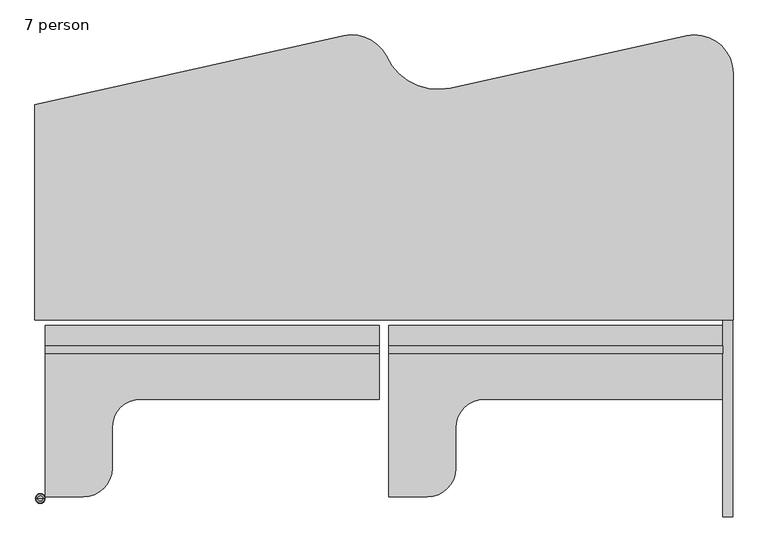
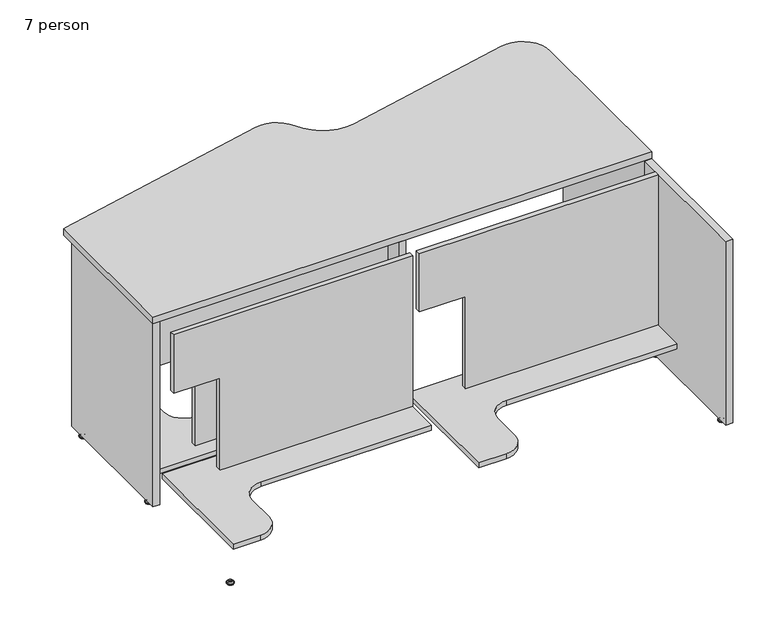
"""IFC4 building model written with IfcOpenShell, lengths in millimetres: furniture geometry, Nova Solutions - Collaboration Table - Keystone_6-7 person : 7 person."""

from ifc_helpers import new_model, si_unit, point, frame, frame_2d, origin, place, context, project, spatial, polyline, circle_curve, ellipse_curve, trimmed, segment, composite_curve, outline, extrude, source, transform, mapped, element, save
from ifc_brep_helpers import plane_surface, cylinder_surface, revolved_surface, advanced_brep


def furniture_7_person_7b940777(model_context):
    return source(origin(), model_context, "Body", "SolidModel", [
        advanced_brep(
        [(1375.9276506, 474.3309375, 11.1125), (1369.25, 474.3309375, 11.1125), (1362.5723494, 474.3309375, 11.1125), (1375.9276506, 474.3309375, 9.525), (1362.5723494, 474.3309375, 9.525), (1381.1355135, 474.3309375, 4.7748687), (1357.3644865, 474.3309375, 4.7748687), (1381.9966506, 474.3309375, 3.989419), (1356.5033494, 474.3309375, 3.989419), (1381.9966506, 474.3309375, 3.175), (1356.5033494, 474.3309375, 3.175), (1381.1459119, 474.3309375, 0.0), (1357.3540881, 474.3309375, 0.0), (1369.25, 474.3309375, 0.0)],
        [
            (0, 1),
            (1, 2),
            (2, 0, circle_curve(frame((1369.25, 474.3309375, 11.1125), z_axis=(0.0, 0.0, 1.0), x_axis=(-1.0, 0.0, 0.0)), 6.6776506)),
            (0, 2, circle_curve(frame((1369.25, 474.3309375, 11.1125), z_axis=(0.0, 0.0, 1.0), x_axis=(-1.0, 0.0, 0.0)), 6.6776506)),
            (3, 0),
            (2, 4),
            (4, 3, circle_curve(frame((1369.25, 474.3309375, 9.525), z_axis=(0.0, 0.0, 1.0), x_axis=(-1.0, 0.0, 0.0)), 6.6776506)),
            (3, 4, circle_curve(frame((1369.25, 474.3309375, 9.525), z_axis=(0.0, 0.0, 1.0), x_axis=(-1.0, 0.0, 0.0)), 6.6776506)),
            (5, 3, circle_curve(frame((1382.1820627, 474.3309375, 11.1521822), z_axis=(0.0, 1.0, 0.0), x_axis=(-1.0, 0.0, 0.0)), 6.462615)),
            (4, 6, circle_curve(frame((1356.3179373, 474.3309375, 11.1521822), z_axis=(0.0, 1.0, 0.0), x_axis=(1.0, 0.0, 0.0)), 6.462615)),
            (6, 5, circle_curve(frame((1369.25, 474.3309375, 4.7748687), z_axis=(0.0, 0.0, 1.0), x_axis=(-1.0, 0.0, 0.0)), 11.8855135)),
            (5, 6, circle_curve(frame((1369.25, 474.3309375, 4.7748687), z_axis=(0.0, 0.0, 1.0), x_axis=(-1.0, 0.0, 0.0)), 11.8855135)),
            (7, 5, circle_curve(frame((1380.9624632, 474.3309375, 3.7203591), z_axis=(0.0, -1.0, 0.0), x_axis=(-1.0, 0.0, 0.0)), 1.0686145)),
            (6, 8, circle_curve(frame((1357.5375368, 474.3309375, 3.7203591), z_axis=(0.0, -1.0, 0.0), x_axis=(1.0, 0.0, 0.0)), 1.0686145)),
            (8, 7, circle_curve(frame((1369.25, 474.3309375, 3.989419), z_axis=(0.0, 0.0, 1.0), x_axis=(-1.0, 0.0, 0.0)), 12.7466506)),
            (7, 8, circle_curve(frame((1369.25, 474.3309375, 3.989419), z_axis=(0.0, 0.0, 1.0), x_axis=(-1.0, 0.0, 0.0)), 12.7466506)),
            (9, 7),
            (8, 10),
            (10, 9, circle_curve(frame((1369.25, 474.3309375, 3.175), z_axis=(0.0, 0.0, 1.0), x_axis=(-1.0, 0.0, 0.0)), 12.7466506)),
            (9, 10, circle_curve(frame((1369.25, 474.3309375, 3.175), z_axis=(0.0, 0.0, 1.0), x_axis=(-1.0, 0.0, 0.0)), 12.7466506)),
            (11, 9),
            (10, 12),
            (12, 11, circle_curve(frame((1369.25, 474.3309375, 0.0), z_axis=(0.0, 0.0, 1.0), x_axis=(-1.0, 0.0, 0.0)), 11.8959119)),
            (11, 12, circle_curve(frame((1369.25, 474.3309375, 0.0), z_axis=(0.0, 0.0, 1.0), x_axis=(-1.0, 0.0, 0.0)), 11.8959119)),
            (13, 11),
            (12, 13),
        ],
        [
            plane_surface(frame((1369.25, 474.3309375, 11.1125), z_axis=(0.0, 0.0, 1.0), x_axis=(-1.0, 0.0, 0.0))),
            cylinder_surface(frame((1369.25, 474.3309375, 43.2095994), z_axis=(0.0, 0.0, -1.0), x_axis=(-1.0, 0.0, 0.0)), 6.6776506),
            revolved_surface(trimmed(ellipse_curve(frame((1356.3179373, 474.3309375, 11.1521822), z_axis=(0.0, 1.0, 0.0), x_axis=(1.0, 0.0, 0.0)), 6.462615, 6.462615), [point((1362.5723494, 474.3309375, 9.525))], [point((1357.3644865, 474.3309375, 4.7748687))], True, "CARTESIAN"), (1369.25, 474.3309375, 43.2095994), (0.0, 0.0, -1.0)),
            revolved_surface(trimmed(ellipse_curve(frame((1357.5375368, 474.3309375, 3.7203591), z_axis=(0.0, -1.0, 0.0), x_axis=(1.0, 0.0, 0.0)), 1.0686145, 1.0686145), [point((1357.3644865, 474.3309375, 4.7748687))], [point((1356.5033494, 474.3309375, 3.989419))], True, "CARTESIAN"), (1369.25, 474.3309375, 43.2095994), (0.0, 0.0, -1.0)),
            cylinder_surface(frame((1369.25, 474.3309375, 43.2095994), z_axis=(0.0, 0.0, -1.0), x_axis=(-1.0, 0.0, 0.0)), 12.7466506),
            revolved_surface(polyline([(1356.5033494, 474.3309375, 3.175), (1357.3540881, 474.3309375, 0.0)]), (1369.25, 474.3309375, 43.2095994), (0.0, 0.0, -1.0)),
            plane_surface(frame((1369.25, 474.3309375, 0.0), z_axis=(0.0, 0.0, -1.0), x_axis=(-1.0, 0.0, 0.0))),
        ],
        [
            (0, [[1, 2, 3]]),
            (0, [[-2, -1, 4]]),
            (1, [[5, -3, 6, 7]]),
            (1, [[-6, -4, -5, 8]]),
            (2, [[9, -7, 10, 11]]),
            (2, [[-10, -8, -9, 12]]),
            (3, [[13, -11, 14, 15]]),
            (3, [[-14, -12, -13, 16]]),
            (4, [[17, -15, 18, 19]]),
            (4, [[-18, -16, -17, 20]]),
            (5, [[21, -19, 22, 23]]),
            (5, [[-22, -20, -21, 24]]),
            (6, [[25, -23, 26]]),
            (6, [[-26, -24, -25]]),
        ],
    ),
        advanced_brep(
        [(1375.9276506, 50.3590625, 11.1125), (1369.25, 50.3590625, 11.1125), (1362.5723494, 50.3590625, 11.1125), (1375.9276506, 50.3590625, 9.525), (1362.5723494, 50.3590625, 9.525), (1381.1355135, 50.3590625, 4.7748687), (1357.3644865, 50.3590625, 4.7748687), (1381.9966506, 50.3590625, 3.989419), (1356.5033494, 50.3590625, 3.989419), (1381.9966506, 50.3590625, 3.175), (1356.5033494, 50.3590625, 3.175), (1381.1459119, 50.3590625, 0.0), (1357.3540881, 50.3590625, 0.0), (1369.25, 50.3590625, 0.0)],
        [
            (0, 1),
            (1, 2),
            (2, 0, circle_curve(frame((1369.25, 50.3590625, 11.1125), z_axis=(0.0, 0.0, 1.0), x_axis=(-1.0, 0.0, 0.0)), 6.6776506)),
            (0, 2, circle_curve(frame((1369.25, 50.3590625, 11.1125), z_axis=(0.0, 0.0, 1.0), x_axis=(-1.0, 0.0, 0.0)), 6.6776506)),
            (3, 0),
            (2, 4),
            (4, 3, circle_curve(frame((1369.25, 50.3590625, 9.525), z_axis=(0.0, 0.0, 1.0), x_axis=(-1.0, 0.0, 0.0)), 6.6776506)),
            (3, 4, circle_curve(frame((1369.25, 50.3590625, 9.525), z_axis=(0.0, 0.0, 1.0), x_axis=(-1.0, 0.0, 0.0)), 6.6776506)),
            (5, 3, circle_curve(frame((1382.1820627, 50.3590625, 11.1521822), z_axis=(0.0, 1.0, 0.0), x_axis=(-1.0, 0.0, 0.0)), 6.462615)),
            (4, 6, circle_curve(frame((1356.3179373, 50.3590625, 11.1521822), z_axis=(0.0, 1.0, 0.0), x_axis=(1.0, 0.0, 0.0)), 6.462615)),
            (6, 5, circle_curve(frame((1369.25, 50.3590625, 4.7748687), z_axis=(0.0, 0.0, 1.0), x_axis=(-1.0, 0.0, 0.0)), 11.8855135)),
            (5, 6, circle_curve(frame((1369.25, 50.3590625, 4.7748687), z_axis=(0.0, 0.0, 1.0), x_axis=(-1.0, 0.0, 0.0)), 11.8855135)),
            (7, 5, circle_curve(frame((1380.9624632, 50.3590625, 3.7203591), z_axis=(0.0, -1.0, 0.0), x_axis=(-1.0, 0.0, 0.0)), 1.0686145)),
            (6, 8, circle_curve(frame((1357.5375368, 50.3590625, 3.7203591), z_axis=(0.0, -1.0, 0.0), x_axis=(1.0, 0.0, 0.0)), 1.0686145)),
            (8, 7, circle_curve(frame((1369.25, 50.3590625, 3.989419), z_axis=(0.0, 0.0, 1.0), x_axis=(-1.0, 0.0, 0.0)), 12.7466506)),
            (7, 8, circle_curve(frame((1369.25, 50.3590625, 3.989419), z_axis=(0.0, 0.0, 1.0), x_axis=(-1.0, 0.0, 0.0)), 12.7466506)),
            (9, 7),
            (8, 10),
            (10, 9, circle_curve(frame((1369.25, 50.3590625, 3.175), z_axis=(0.0, 0.0, 1.0), x_axis=(-1.0, 0.0, 0.0)), 12.7466506)),
            (9, 10, circle_curve(frame((1369.25, 50.3590625, 3.175), z_axis=(0.0, 0.0, 1.0), x_axis=(-1.0, 0.0, 0.0)), 12.7466506)),
            (11, 9),
            (10, 12),
            (12, 11, circle_curve(frame((1369.25, 50.3590625, 0.0), z_axis=(0.0, 0.0, 1.0), x_axis=(-1.0, 0.0, 0.0)), 11.8959119)),
            (11, 12, circle_curve(frame((1369.25, 50.3590625, 0.0), z_axis=(0.0, 0.0, 1.0), x_axis=(-1.0, 0.0, 0.0)), 11.8959119)),
            (13, 11),
            (12, 13),
        ],
        [
            plane_surface(frame((1369.25, 50.3590625, 11.1125), z_axis=(0.0, 0.0, 1.0), x_axis=(-1.0, 0.0, 0.0))),
            cylinder_surface(frame((1369.25, 50.3590625, 43.2095994), z_axis=(0.0, 0.0, -1.0), x_axis=(-1.0, 0.0, 0.0)), 6.6776506),
            revolved_surface(trimmed(ellipse_curve(frame((1356.3179373, 50.3590625, 11.1521822), z_axis=(0.0, 1.0, 0.0), x_axis=(1.0, 0.0, 0.0)), 6.462615, 6.462615), [point((1362.5723494, 50.3590625, 9.525))], [point((1357.3644865, 50.3590625, 4.7748687))], True, "CARTESIAN"), (1369.25, 50.3590625, 43.2095994), (0.0, 0.0, -1.0)),
            revolved_surface(trimmed(ellipse_curve(frame((1357.5375368, 50.3590625, 3.7203591), z_axis=(0.0, -1.0, 0.0), x_axis=(1.0, 0.0, 0.0)), 1.0686145, 1.0686145), [point((1357.3644865, 50.3590625, 4.7748687))], [point((1356.5033494, 50.3590625, 3.989419))], True, "CARTESIAN"), (1369.25, 50.3590625, 43.2095994), (0.0, 0.0, -1.0)),
            cylinder_surface(frame((1369.25, 50.3590625, 43.2095994), z_axis=(0.0, 0.0, -1.0), x_axis=(-1.0, 0.0, 0.0)), 12.7466506),
            revolved_surface(polyline([(1356.5033494, 50.3590625, 3.175), (1357.3540881, 50.3590625, 0.0)]), (1369.25, 50.3590625, 43.2095994), (0.0, 0.0, -1.0)),
            plane_surface(frame((1369.25, 50.3590625, 0.0), z_axis=(0.0, 0.0, -1.0), x_axis=(-1.0, 0.0, 0.0))),
        ],
        [
            (0, [[1, 2, 3]]),
            (0, [[-2, -1, 4]]),
            (1, [[5, -3, 6, 7]]),
            (1, [[-6, -4, -5, 8]]),
            (2, [[9, -7, 10, 11]]),
            (2, [[-10, -8, -9, 12]]),
            (3, [[13, -11, 14, 15]]),
            (3, [[-14, -12, -13, 16]]),
            (4, [[17, -15, 18, 19]]),
            (4, [[-18, -16, -17, 20]]),
            (5, [[21, -19, 22, 23]]),
            (5, [[-22, -20, -21, 24]]),
            (6, [[25, -23, 26]]),
            (6, [[-26, -24, -25]]),
        ],
    ),
        extrude(outline(polyline([(1382.1, 1.345), (1356.4, 1.345), (1356.4, 523.345), (1382.1, 523.345), (1382.1, 1.345)])), frame((0.0, 0.0, 15.6), z_axis=(0.0, 0.0, 1.0), x_axis=(1.0, 0.0, 0.0)), (0.0, 0.0, 1.0), 720.7),
        extrude(outline(polyline([(736.3, 443.6), (736.3, -443.6), (507.4, -443.6), (507.4, -272.6), (145.5, -272.6), (145.5, 443.6), (736.3, 443.6)])), frame((0.0, 69.345, 0.0), z_axis=(0.0, 1.0, 0.0), x_axis=(0.0, 0.0, 1.0)), (0.0, 0.0, 1.0), 19.2),
        extrude(outline(composite_curve([segment(polyline([(-443.6, 469.9075), (-342.0, 469.9075)]), True, "CONTINUOUS"), segment(trimmed(circle_curve(frame_2d((-342.0, 393.7075)), 76.2), [point((-342.0, 469.9075))], [point((-265.8, 393.7075))], False, "CARTESIAN"), True, "CONTINUOUS"), segment(polyline([(-265.8, 393.7075), (-265.8, 286.545)]), True, "CONTINUOUS"), segment(trimmed(circle_curve(frame_2d((-189.6, 286.545)), 76.2), [point((-265.8, 286.545))], [point((-189.6, 210.345))], True, "CARTESIAN"), True, "CONTINUOUS"), segment(polyline([(-189.6, 210.345), (443.6, 210.345), (443.6, 14.045), (-443.6, 14.045), (-443.6, 469.9075)]), True, "CONTINUOUS")], self_intersect=False)), frame((0.0, 0.0, 126.3), z_axis=(0.0, 0.0, 1.0), x_axis=(1.0, 0.0, 0.0)), (0.0, 0.0, 1.0), 19.2),
        advanced_brep(
        [(-463.1276506, 474.3309375, 11.1125), (-449.7723494, 474.3309375, 11.1125), (-456.45, 474.3309375, 11.1125), (-463.1276506, 474.3309375, 9.525), (-449.7723494, 474.3309375, 9.525), (-468.3355135, 474.3309375, 4.7748687), (-444.5644865, 474.3309375, 4.7748687), (-469.1966506, 474.3309375, 3.989419), (-443.7033494, 474.3309375, 3.989419), (-469.1966506, 474.3309375, 3.175), (-443.7033494, 474.3309375, 3.175), (-468.3459119, 474.3309375, 0.0), (-444.5540881, 474.3309375, 0.0), (-456.45, 474.3309375, 0.0)],
        [
            (0, 1, circle_curve(frame((-456.45, 474.3309375, 11.1125), z_axis=(0.0, 0.0, 1.0), x_axis=(1.0, 0.0, 0.0)), 6.6776506)),
            (1, 2),
            (2, 0),
            (1, 0, circle_curve(frame((-456.45, 474.3309375, 11.1125), z_axis=(0.0, 0.0, 1.0), x_axis=(1.0, 0.0, 0.0)), 6.6776506)),
            (3, 4, circle_curve(frame((-456.45, 474.3309375, 9.525), z_axis=(0.0, 0.0, 1.0), x_axis=(1.0, 0.0, 0.0)), 6.6776506)),
            (4, 1),
            (0, 3),
            (4, 3, circle_curve(frame((-456.45, 474.3309375, 9.525), z_axis=(0.0, 0.0, 1.0), x_axis=(1.0, 0.0, 0.0)), 6.6776506)),
            (5, 6, circle_curve(frame((-456.45, 474.3309375, 4.7748687), z_axis=(0.0, 0.0, 1.0), x_axis=(1.0, 0.0, 0.0)), 11.8855135)),
            (6, 4, circle_curve(frame((-443.5179373, 474.3309375, 11.1521822), z_axis=(0.0, 1.0, 0.0), x_axis=(-1.0, 0.0, 0.0)), 6.462615)),
            (3, 5, circle_curve(frame((-469.3820627, 474.3309375, 11.1521822), z_axis=(0.0, 1.0, 0.0), x_axis=(1.0, 0.0, 0.0)), 6.462615)),
            (6, 5, circle_curve(frame((-456.45, 474.3309375, 4.7748687), z_axis=(0.0, 0.0, 1.0), x_axis=(1.0, 0.0, 0.0)), 11.8855135)),
            (7, 8, circle_curve(frame((-456.45, 474.3309375, 3.989419), z_axis=(0.0, 0.0, 1.0), x_axis=(1.0, 0.0, 0.0)), 12.7466506)),
            (8, 6, circle_curve(frame((-444.7375368, 474.3309375, 3.7203591), z_axis=(0.0, -1.0, 0.0), x_axis=(-1.0, 0.0, 0.0)), 1.0686145)),
            (5, 7, circle_curve(frame((-468.1624632, 474.3309375, 3.7203591), z_axis=(0.0, -1.0, 0.0), x_axis=(1.0, 0.0, 0.0)), 1.0686145)),
            (8, 7, circle_curve(frame((-456.45, 474.3309375, 3.989419), z_axis=(0.0, 0.0, 1.0), x_axis=(1.0, 0.0, 0.0)), 12.7466506)),
            (9, 10, circle_curve(frame((-456.45, 474.3309375, 3.175), z_axis=(0.0, 0.0, 1.0), x_axis=(1.0, 0.0, 0.0)), 12.7466506)),
            (10, 8),
            (7, 9),
            (10, 9, circle_curve(frame((-456.45, 474.3309375, 3.175), z_axis=(0.0, 0.0, 1.0), x_axis=(1.0, 0.0, 0.0)), 12.7466506)),
            (11, 12, circle_curve(frame((-456.45, 474.3309375, 0.0), z_axis=(0.0, 0.0, 1.0), x_axis=(1.0, 0.0, 0.0)), 11.8959119)),
            (12, 10),
            (9, 11),
            (12, 11, circle_curve(frame((-456.45, 474.3309375, 0.0), z_axis=(0.0, 0.0, 1.0), x_axis=(1.0, 0.0, 0.0)), 11.8959119)),
            (13, 12),
            (11, 13),
        ],
        [
            plane_surface(frame((-456.45, 474.3309375, 11.1125), z_axis=(0.0, 0.0, 1.0), x_axis=(1.0, 0.0, 0.0))),
            cylinder_surface(frame((-456.45, 474.3309375, 43.2095994), z_axis=(0.0, 0.0, -1.0), x_axis=(1.0, 0.0, 0.0)), 6.6776506),
            revolved_surface(trimmed(ellipse_curve(frame((-443.5179373, 474.3309375, 11.1521822), z_axis=(0.0, -1.0, 0.0), x_axis=(-1.0, 0.0, 0.0)), 6.462615, 6.462615), [point((-449.7723494, 474.3309375, 9.525))], [point((-444.5644865, 474.3309375, 4.7748687))], True, "CARTESIAN"), (-456.45, 474.3309375, 43.2095994), (0.0, 0.0, -1.0)),
            revolved_surface(trimmed(ellipse_curve(frame((-444.7375368, 474.3309375, 3.7203591), z_axis=(0.0, 1.0, 0.0), x_axis=(-1.0, 0.0, 0.0)), 1.0686145, 1.0686145), [point((-444.5644865, 474.3309375, 4.7748687))], [point((-443.7033494, 474.3309375, 3.989419))], True, "CARTESIAN"), (-456.45, 474.3309375, 43.2095994), (0.0, 0.0, -1.0)),
            cylinder_surface(frame((-456.45, 474.3309375, 43.2095994), z_axis=(0.0, 0.0, -1.0), x_axis=(1.0, 0.0, 0.0)), 12.7466506),
            revolved_surface(polyline([(-443.7033494, 474.3309375, 3.175), (-444.5540881, 474.3309375, 0.0)]), (-456.45, 474.3309375, 43.2095994), (0.0, 0.0, -1.0)),
            plane_surface(frame((-456.45, 474.3309375, 0.0), z_axis=(0.0, 0.0, -1.0), x_axis=(1.0, 0.0, 0.0))),
        ],
        [
            (0, [[1, 2, 3]]),
            (0, [[4, -3, -2]]),
            (1, [[5, 6, -1, 7]]),
            (1, [[8, -7, -4, -6]]),
            (2, [[9, 10, -5, 11]]),
            (2, [[12, -11, -8, -10]]),
            (3, [[13, 14, -9, 15]]),
            (3, [[16, -15, -12, -14]]),
            (4, [[17, 18, -13, 19]]),
            (4, [[20, -19, -16, -18]]),
            (5, [[21, 22, -17, 23]]),
            (5, [[24, -23, -20, -22]]),
            (6, [[25, -21, 26]]),
            (6, [[-26, -24, -25]]),
        ],
    ),
        advanced_brep(
        [(-463.1276506, 50.3590625, 11.1125), (-449.7723494, 50.3590625, 11.1125), (-456.45, 50.3590625, 11.1125), (-463.1276506, 50.3590625, 9.525), (-449.7723494, 50.3590625, 9.525), (-468.3355135, 50.3590625, 4.7748687), (-444.5644865, 50.3590625, 4.7748687), (-469.1966506, 50.3590625, 3.989419), (-443.7033494, 50.3590625, 3.989419), (-469.1966506, 50.3590625, 3.175), (-443.7033494, 50.3590625, 3.175), (-468.3459119, 50.3590625, 0.0), (-444.5540881, 50.3590625, 0.0), (-456.45, 50.3590625, 0.0)],
        [
            (0, 1, circle_curve(frame((-456.45, 50.3590625, 11.1125), z_axis=(0.0, 0.0, 1.0), x_axis=(1.0, 0.0, 0.0)), 6.6776506)),
            (1, 2),
            (2, 0),
            (1, 0, circle_curve(frame((-456.45, 50.3590625, 11.1125), z_axis=(0.0, 0.0, 1.0), x_axis=(1.0, 0.0, 0.0)), 6.6776506)),
            (3, 4, circle_curve(frame((-456.45, 50.3590625, 9.525), z_axis=(0.0, 0.0, 1.0), x_axis=(1.0, 0.0, 0.0)), 6.6776506)),
            (4, 1),
            (0, 3),
            (4, 3, circle_curve(frame((-456.45, 50.3590625, 9.525), z_axis=(0.0, 0.0, 1.0), x_axis=(1.0, 0.0, 0.0)), 6.6776506)),
            (5, 6, circle_curve(frame((-456.45, 50.3590625, 4.7748687), z_axis=(0.0, 0.0, 1.0), x_axis=(1.0, 0.0, 0.0)), 11.8855135)),
            (6, 4, circle_curve(frame((-443.5179373, 50.3590625, 11.1521822), z_axis=(0.0, 1.0, 0.0), x_axis=(-1.0, 0.0, 0.0)), 6.462615)),
            (3, 5, circle_curve(frame((-469.3820627, 50.3590625, 11.1521822), z_axis=(0.0, 1.0, 0.0), x_axis=(1.0, 0.0, 0.0)), 6.462615)),
            (6, 5, circle_curve(frame((-456.45, 50.3590625, 4.7748687), z_axis=(0.0, 0.0, 1.0), x_axis=(1.0, 0.0, 0.0)), 11.8855135)),
            (7, 8, circle_curve(frame((-456.45, 50.3590625, 3.989419), z_axis=(0.0, 0.0, 1.0), x_axis=(1.0, 0.0, 0.0)), 12.7466506)),
            (8, 6, circle_curve(frame((-444.7375368, 50.3590625, 3.7203591), z_axis=(0.0, -1.0, 0.0), x_axis=(-1.0, 0.0, 0.0)), 1.0686145)),
            (5, 7, circle_curve(frame((-468.1624632, 50.3590625, 3.7203591), z_axis=(0.0, -1.0, 0.0), x_axis=(1.0, 0.0, 0.0)), 1.0686145)),
            (8, 7, circle_curve(frame((-456.45, 50.3590625, 3.989419), z_axis=(0.0, 0.0, 1.0), x_axis=(1.0, 0.0, 0.0)), 12.7466506)),
            (9, 10, circle_curve(frame((-456.45, 50.3590625, 3.175), z_axis=(0.0, 0.0, 1.0), x_axis=(1.0, 0.0, 0.0)), 12.7466506)),
            (10, 8),
            (7, 9),
            (10, 9, circle_curve(frame((-456.45, 50.3590625, 3.175), z_axis=(0.0, 0.0, 1.0), x_axis=(1.0, 0.0, 0.0)), 12.7466506)),
            (11, 12, circle_curve(frame((-456.45, 50.3590625, 0.0), z_axis=(0.0, 0.0, 1.0), x_axis=(1.0, 0.0, 0.0)), 11.8959119)),
            (12, 10),
            (9, 11),
            (12, 11, circle_curve(frame((-456.45, 50.3590625, 0.0), z_axis=(0.0, 0.0, 1.0), x_axis=(1.0, 0.0, 0.0)), 11.8959119)),
            (13, 12),
            (11, 13),
        ],
        [
            plane_surface(frame((-456.45, 50.3590625, 11.1125), z_axis=(0.0, 0.0, 1.0), x_axis=(1.0, 0.0, 0.0))),
            cylinder_surface(frame((-456.45, 50.3590625, 43.2095994), z_axis=(0.0, 0.0, -1.0), x_axis=(1.0, 0.0, 0.0)), 6.6776506),
            revolved_surface(trimmed(ellipse_curve(frame((-443.5179373, 50.3590625, 11.1521822), z_axis=(0.0, -1.0, 0.0), x_axis=(-1.0, 0.0, 0.0)), 6.462615, 6.462615), [point((-449.7723494, 50.3590625, 9.525))], [point((-444.5644865, 50.3590625, 4.7748687))], True, "CARTESIAN"), (-456.45, 50.3590625, 43.2095994), (0.0, 0.0, -1.0)),
            revolved_surface(trimmed(ellipse_curve(frame((-444.7375368, 50.3590625, 3.7203591), z_axis=(0.0, 1.0, 0.0), x_axis=(-1.0, 0.0, 0.0)), 1.0686145, 1.0686145), [point((-444.5644865, 50.3590625, 4.7748687))], [point((-443.7033494, 50.3590625, 3.989419))], True, "CARTESIAN"), (-456.45, 50.3590625, 43.2095994), (0.0, 0.0, -1.0)),
            cylinder_surface(frame((-456.45, 50.3590625, 43.2095994), z_axis=(0.0, 0.0, -1.0), x_axis=(1.0, 0.0, 0.0)), 12.7466506),
            revolved_surface(polyline([(-443.7033494, 50.3590625, 3.175), (-444.5540881, 50.3590625, 0.0)]), (-456.45, 50.3590625, 43.2095994), (0.0, 0.0, -1.0)),
            plane_surface(frame((-456.45, 50.3590625, 0.0), z_axis=(0.0, 0.0, -1.0), x_axis=(1.0, 0.0, 0.0))),
        ],
        [
            (0, [[1, 2, 3]]),
            (0, [[4, -3, -2]]),
            (1, [[5, 6, -1, 7]]),
            (1, [[8, -7, -4, -6]]),
            (2, [[9, 10, -5, 11]]),
            (2, [[12, -11, -8, -10]]),
            (3, [[13, 14, -9, 15]]),
            (3, [[16, -15, -12, -14]]),
            (4, [[17, 18, -13, 19]]),
            (4, [[20, -19, -16, -18]]),
            (5, [[21, 22, -17, 23]]),
            (5, [[24, -23, -20, -22]]),
            (6, [[25, -21, 26]]),
            (6, [[-26, -24, -25]]),
        ],
    ),
        extrude(outline(polyline([(-469.3, 1.345), (-469.3, 523.345), (-443.6, 523.345), (-443.6, 1.345), (-469.3, 1.345)])), frame((0.0, 0.0, 15.6), z_axis=(0.0, 0.0, 1.0), x_axis=(1.0, 0.0, 0.0)), (0.0, 0.0, 1.0), 720.7),
        advanced_brep(
        [(463.1276506, 474.3309375, 11.1125), (456.45, 474.3309375, 11.1125), (449.7723494, 474.3309375, 11.1125), (463.1276506, 474.3309375, 9.525), (449.7723494, 474.3309375, 9.525), (468.3355135, 474.3309375, 4.7748687), (444.5644865, 474.3309375, 4.7748687), (469.1966506, 474.3309375, 3.989419), (443.7033494, 474.3309375, 3.989419), (469.1966506, 474.3309375, 3.175), (443.7033494, 474.3309375, 3.175), (468.3459119, 474.3309375, 0.0), (444.5540881, 474.3309375, 0.0), (456.45, 474.3309375, 0.0)],
        [
            (0, 1),
            (1, 2),
            (2, 0, circle_curve(frame((456.45, 474.3309375, 11.1125), z_axis=(0.0, 0.0, 1.0), x_axis=(-1.0, 0.0, 0.0)), 6.6776506)),
            (0, 2, circle_curve(frame((456.45, 474.3309375, 11.1125), z_axis=(0.0, 0.0, 1.0), x_axis=(-1.0, 0.0, 0.0)), 6.6776506)),
            (3, 0),
            (2, 4),
            (4, 3, circle_curve(frame((456.45, 474.3309375, 9.525), z_axis=(0.0, 0.0, 1.0), x_axis=(-1.0, 0.0, 0.0)), 6.6776506)),
            (3, 4, circle_curve(frame((456.45, 474.3309375, 9.525), z_axis=(0.0, 0.0, 1.0), x_axis=(-1.0, 0.0, 0.0)), 6.6776506)),
            (5, 3, circle_curve(frame((469.3820627, 474.3309375, 11.1521822), z_axis=(0.0, 1.0, 0.0), x_axis=(-1.0, 0.0, 0.0)), 6.462615)),
            (4, 6, circle_curve(frame((443.5179373, 474.3309375, 11.1521822), z_axis=(0.0, 1.0, 0.0), x_axis=(1.0, 0.0, 0.0)), 6.462615)),
            (6, 5, circle_curve(frame((456.45, 474.3309375, 4.7748687), z_axis=(0.0, 0.0, 1.0), x_axis=(-1.0, 0.0, 0.0)), 11.8855135)),
            (5, 6, circle_curve(frame((456.45, 474.3309375, 4.7748687), z_axis=(0.0, 0.0, 1.0), x_axis=(-1.0, 0.0, 0.0)), 11.8855135)),
            (7, 5, circle_curve(frame((468.1624632, 474.3309375, 3.7203591), z_axis=(0.0, -1.0, 0.0), x_axis=(-1.0, 0.0, 0.0)), 1.0686145)),
            (6, 8, circle_curve(frame((444.7375368, 474.3309375, 3.7203591), z_axis=(0.0, -1.0, 0.0), x_axis=(1.0, 0.0, 0.0)), 1.0686145)),
            (8, 7, circle_curve(frame((456.45, 474.3309375, 3.989419), z_axis=(0.0, 0.0, 1.0), x_axis=(-1.0, 0.0, 0.0)), 12.7466506)),
            (7, 8, circle_curve(frame((456.45, 474.3309375, 3.989419), z_axis=(0.0, 0.0, 1.0), x_axis=(-1.0, 0.0, 0.0)), 12.7466506)),
            (9, 7),
            (8, 10),
            (10, 9, circle_curve(frame((456.45, 474.3309375, 3.175), z_axis=(0.0, 0.0, 1.0), x_axis=(-1.0, 0.0, 0.0)), 12.7466506)),
            (9, 10, circle_curve(frame((456.45, 474.3309375, 3.175), z_axis=(0.0, 0.0, 1.0), x_axis=(-1.0, 0.0, 0.0)), 12.7466506)),
            (11, 9),
            (10, 12),
            (12, 11, circle_curve(frame((456.45, 474.3309375, 0.0), z_axis=(0.0, 0.0, 1.0), x_axis=(-1.0, 0.0, 0.0)), 11.8959119)),
            (11, 12, circle_curve(frame((456.45, 474.3309375, 0.0), z_axis=(0.0, 0.0, 1.0), x_axis=(-1.0, 0.0, 0.0)), 11.8959119)),
            (13, 11),
            (12, 13),
        ],
        [
            plane_surface(frame((456.45, 474.3309375, 11.1125), z_axis=(0.0, 0.0, 1.0), x_axis=(-1.0, 0.0, 0.0))),
            cylinder_surface(frame((456.45, 474.3309375, 43.2095994), z_axis=(0.0, 0.0, -1.0), x_axis=(-1.0, 0.0, 0.0)), 6.6776506),
            revolved_surface(trimmed(ellipse_curve(frame((443.5179373, 474.3309375, 11.1521822), z_axis=(0.0, 1.0, 0.0), x_axis=(1.0, 0.0, 0.0)), 6.462615, 6.462615), [point((449.7723494, 474.3309375, 9.525))], [point((444.5644865, 474.3309375, 4.7748687))], True, "CARTESIAN"), (456.45, 474.3309375, 43.2095994), (0.0, 0.0, -1.0)),
            revolved_surface(trimmed(ellipse_curve(frame((444.7375368, 474.3309375, 3.7203591), z_axis=(0.0, -1.0, 0.0), x_axis=(1.0, 0.0, 0.0)), 1.0686145, 1.0686145), [point((444.5644865, 474.3309375, 4.7748687))], [point((443.7033494, 474.3309375, 3.989419))], True, "CARTESIAN"), (456.45, 474.3309375, 43.2095994), (0.0, 0.0, -1.0)),
            cylinder_surface(frame((456.45, 474.3309375, 43.2095994), z_axis=(0.0, 0.0, -1.0), x_axis=(-1.0, 0.0, 0.0)), 12.7466506),
            revolved_surface(polyline([(443.7033494, 474.3309375, 3.175), (444.5540881, 474.3309375, 0.0)]), (456.45, 474.3309375, 43.2095994), (0.0, 0.0, -1.0)),
            plane_surface(frame((456.45, 474.3309375, 0.0), z_axis=(0.0, 0.0, -1.0), x_axis=(-1.0, 0.0, 0.0))),
        ],
        [
            (0, [[1, 2, 3]]),
            (0, [[-2, -1, 4]]),
            (1, [[5, -3, 6, 7]]),
            (1, [[-6, -4, -5, 8]]),
            (2, [[9, -7, 10, 11]]),
            (2, [[-10, -8, -9, 12]]),
            (3, [[13, -11, 14, 15]]),
            (3, [[-14, -12, -13, 16]]),
            (4, [[17, -15, 18, 19]]),
            (4, [[-18, -16, -17, 20]]),
            (5, [[21, -19, 22, 23]]),
            (5, [[-22, -20, -21, 24]]),
            (6, [[25, -23, 26]]),
            (6, [[-26, -24, -25]]),
        ],
    ),
        advanced_brep(
        [(463.1276506, 50.3590625, 11.1125), (456.45, 50.3590625, 11.1125), (449.7723494, 50.3590625, 11.1125), (463.1276506, 50.3590625, 9.525), (449.7723494, 50.3590625, 9.525), (468.3355135, 50.3590625, 4.7748687), (444.5644865, 50.3590625, 4.7748687), (469.1966506, 50.3590625, 3.989419), (443.7033494, 50.3590625, 3.989419), (469.1966506, 50.3590625, 3.175), (443.7033494, 50.3590625, 3.175), (468.3459119, 50.3590625, 0.0), (444.5540881, 50.3590625, 0.0), (456.45, 50.3590625, 0.0)],
        [
            (0, 1),
            (1, 2),
            (2, 0, circle_curve(frame((456.45, 50.3590625, 11.1125), z_axis=(0.0, 0.0, 1.0), x_axis=(-1.0, 0.0, 0.0)), 6.6776506)),
            (0, 2, circle_curve(frame((456.45, 50.3590625, 11.1125), z_axis=(0.0, 0.0, 1.0), x_axis=(-1.0, 0.0, 0.0)), 6.6776506)),
            (3, 0),
            (2, 4),
            (4, 3, circle_curve(frame((456.45, 50.3590625, 9.525), z_axis=(0.0, 0.0, 1.0), x_axis=(-1.0, 0.0, 0.0)), 6.6776506)),
            (3, 4, circle_curve(frame((456.45, 50.3590625, 9.525), z_axis=(0.0, 0.0, 1.0), x_axis=(-1.0, 0.0, 0.0)), 6.6776506)),
            (5, 3, circle_curve(frame((469.3820627, 50.3590625, 11.1521822), z_axis=(0.0, 1.0, 0.0), x_axis=(-1.0, 0.0, 0.0)), 6.462615)),
            (4, 6, circle_curve(frame((443.5179373, 50.3590625, 11.1521822), z_axis=(0.0, 1.0, 0.0), x_axis=(1.0, 0.0, 0.0)), 6.462615)),
            (6, 5, circle_curve(frame((456.45, 50.3590625, 4.7748687), z_axis=(0.0, 0.0, 1.0), x_axis=(-1.0, 0.0, 0.0)), 11.8855135)),
            (5, 6, circle_curve(frame((456.45, 50.3590625, 4.7748687), z_axis=(0.0, 0.0, 1.0), x_axis=(-1.0, 0.0, 0.0)), 11.8855135)),
            (7, 5, circle_curve(frame((468.1624632, 50.3590625, 3.7203591), z_axis=(0.0, -1.0, 0.0), x_axis=(-1.0, 0.0, 0.0)), 1.0686145)),
            (6, 8, circle_curve(frame((444.7375368, 50.3590625, 3.7203591), z_axis=(0.0, -1.0, 0.0), x_axis=(1.0, 0.0, 0.0)), 1.0686145)),
            (8, 7, circle_curve(frame((456.45, 50.3590625, 3.989419), z_axis=(0.0, 0.0, 1.0), x_axis=(-1.0, 0.0, 0.0)), 12.7466506)),
            (7, 8, circle_curve(frame((456.45, 50.3590625, 3.989419), z_axis=(0.0, 0.0, 1.0), x_axis=(-1.0, 0.0, 0.0)), 12.7466506)),
            (9, 7),
            (8, 10),
            (10, 9, circle_curve(frame((456.45, 50.3590625, 3.175), z_axis=(0.0, 0.0, 1.0), x_axis=(-1.0, 0.0, 0.0)), 12.7466506)),
            (9, 10, circle_curve(frame((456.45, 50.3590625, 3.175), z_axis=(0.0, 0.0, 1.0), x_axis=(-1.0, 0.0, 0.0)), 12.7466506)),
            (11, 9),
            (10, 12),
            (12, 11, circle_curve(frame((456.45, 50.3590625, 0.0), z_axis=(0.0, 0.0, 1.0), x_axis=(-1.0, 0.0, 0.0)), 11.8959119)),
            (11, 12, circle_curve(frame((456.45, 50.3590625, 0.0), z_axis=(0.0, 0.0, 1.0), x_axis=(-1.0, 0.0, 0.0)), 11.8959119)),
            (13, 11),
            (12, 13),
        ],
        [
            plane_surface(frame((456.45, 50.3590625, 11.1125), z_axis=(0.0, 0.0, 1.0), x_axis=(-1.0, 0.0, 0.0))),
            cylinder_surface(frame((456.45, 50.3590625, 43.2095994), z_axis=(0.0, 0.0, -1.0), x_axis=(-1.0, 0.0, 0.0)), 6.6776506),
            revolved_surface(trimmed(ellipse_curve(frame((443.5179373, 50.3590625, 11.1521822), z_axis=(0.0, 1.0, 0.0), x_axis=(1.0, 0.0, 0.0)), 6.462615, 6.462615), [point((449.7723494, 50.3590625, 9.525))], [point((444.5644865, 50.3590625, 4.7748687))], True, "CARTESIAN"), (456.45, 50.3590625, 43.2095994), (0.0, 0.0, -1.0)),
            revolved_surface(trimmed(ellipse_curve(frame((444.7375368, 50.3590625, 3.7203591), z_axis=(0.0, -1.0, 0.0), x_axis=(1.0, 0.0, 0.0)), 1.0686145, 1.0686145), [point((444.5644865, 50.3590625, 4.7748687))], [point((443.7033494, 50.3590625, 3.989419))], True, "CARTESIAN"), (456.45, 50.3590625, 43.2095994), (0.0, 0.0, -1.0)),
            cylinder_surface(frame((456.45, 50.3590625, 43.2095994), z_axis=(0.0, 0.0, -1.0), x_axis=(-1.0, 0.0, 0.0)), 12.7466506),
            revolved_surface(polyline([(443.7033494, 50.3590625, 3.175), (444.5540881, 50.3590625, 0.0)]), (456.45, 50.3590625, 43.2095994), (0.0, 0.0, -1.0)),
            plane_surface(frame((456.45, 50.3590625, 0.0), z_axis=(0.0, 0.0, -1.0), x_axis=(-1.0, 0.0, 0.0))),
        ],
        [
            (0, [[1, 2, 3]]),
            (0, [[-2, -1, 4]]),
            (1, [[5, -3, 6, 7]]),
            (1, [[-6, -4, -5, 8]]),
            (2, [[9, -7, 10, 11]]),
            (2, [[-10, -8, -9, 12]]),
            (3, [[13, -11, 14, 15]]),
            (3, [[-14, -12, -13, 16]]),
            (4, [[17, -15, 18, 19]]),
            (4, [[-18, -16, -17, 20]]),
            (5, [[21, -19, 22, 23]]),
            (5, [[-22, -20, -21, 24]]),
            (6, [[25, -23, 26]]),
            (6, [[-26, -24, -25]]),
        ],
    ),
        extrude(outline(polyline([(469.3, 1.345), (443.6, 1.345), (443.6, 523.345), (469.3, 523.345), (469.3, 1.345)])), frame((0.0, 0.0, 15.6), z_axis=(0.0, 0.0, 1.0), x_axis=(1.0, 0.0, 0.0)), (0.0, 0.0, 1.0), 720.7),
        extrude(outline(composite_curve([segment(polyline([(1383.5, 0.0), (-470.738, 0.0), (-470.738, 572.7433508)]), True, "CONTINUOUS"), segment(trimmed(circle_curve(frame_2d((-445.3751452, 474.4632633)), 101.5), [point((-470.738, 572.7433508))], [point((-464.3258236, 574.1784667))], False, "CARTESIAN"), True, "CONTINUOUS"), segment(polyline([(-464.3258236, 574.1784667), (349.1672116, 755.6229945)]), True, "CONTINUOUS"), segment(trimmed(circle_curve(frame_2d((371.2632006, 656.5572725)), 101.5), [point((349.1672116, 755.6229945))], [point((461.8649334, 702.3128843))], False, "CARTESIAN"), True, "CONTINUOUS"), segment(trimmed(circle_curve(frame_2d((600.5430311, 765.5121345)), 152.4), [point((461.8649334, 702.3128843))], [point((633.5284283, 616.724623))], True, "CARTESIAN"), True, "CONTINUOUS"), segment(polyline([(633.5284283, 616.724623), (1260.0313792, 755.6169834)]), True, "CONTINUOUS"), segment(trimmed(circle_curve(frame_2d((1282.0, 656.5229386)), 101.5), [point((1260.0313792, 755.6169834))], [point((1383.5, 656.5229386))], False, "CARTESIAN"), True, "CONTINUOUS"), segment(polyline([(1383.5, 656.5229386), (1383.5, 0.0)]), True, "CONTINUOUS")], self_intersect=False)), frame((0.0, 0.0, 736.3), z_axis=(0.0, 0.0, 1.0), x_axis=(1.0, 0.0, 0.0)), (0.0, 0.0, 1.0), 25.7),
        extrude(outline(polyline([(736.3, 1356.4), (736.3, 469.3), (507.4, 469.3), (507.4, 640.3), (145.5, 640.3), (145.5, 1356.4), (736.3, 1356.4)])), frame((0.0, -88.545, 0.0), z_axis=(0.0, 1.0, 0.0), x_axis=(0.0, 0.0, 1.0)), (0.0, 0.0, 1.0), 19.2),
        extrude(outline(composite_curve([segment(polyline([(1356.4, -14.045), (1356.4, -210.345), (723.3, -210.345)]), True, "CONTINUOUS"), segment(trimmed(circle_curve(frame_2d((723.3, -286.545)), 76.2), [point((723.3, -210.345))], [point((647.1, -286.545))], True, "CARTESIAN"), True, "CONTINUOUS"), segment(polyline([(647.1, -286.545), (647.1, -393.7075)]), True, "CONTINUOUS"), segment(trimmed(circle_curve(frame_2d((570.9, -393.7075)), 76.2), [point((647.1, -393.7075))], [point((570.9, -469.9075))], False, "CARTESIAN"), True, "CONTINUOUS"), segment(polyline([(570.9, -469.9075), (469.3, -469.9075), (469.3, -14.045), (1356.4, -14.045)]), True, "CONTINUOUS")], self_intersect=False)), frame((0.0, 0.0, 126.3), z_axis=(0.0, 0.0, 1.0), x_axis=(1.0, 0.0, 0.0)), (0.0, 0.0, 1.0), 19.2),
        advanced_brep(
        [(1375.9276506, -474.3309375, 11.1125), (1362.5723494, -474.3309375, 11.1125), (1369.25, -474.3309375, 11.1125), (1375.9276506, -474.3309375, 9.525), (1362.5723494, -474.3309375, 9.525), (1381.1355135, -474.3309375, 4.7748687), (1357.3644865, -474.3309375, 4.7748687), (1381.9966506, -474.3309375, 3.989419), (1356.5033494, -474.3309375, 3.989419), (1381.9966506, -474.3309375, 3.175), (1356.5033494, -474.3309375, 3.175), (1381.1459119, -474.3309375, 0.0), (1357.3540881, -474.3309375, 0.0), (1369.25, -474.3309375, 0.0)],
        [
            (0, 1, circle_curve(frame((1369.25, -474.3309375, 11.1125), z_axis=(0.0, 0.0, 1.0), x_axis=(-1.0, 0.0, 0.0)), 6.6776506)),
            (1, 2),
            (2, 0),
            (1, 0, circle_curve(frame((1369.25, -474.3309375, 11.1125), z_axis=(0.0, 0.0, 1.0), x_axis=(-1.0, 0.0, 0.0)), 6.6776506)),
            (3, 4, circle_curve(frame((1369.25, -474.3309375, 9.525), z_axis=(0.0, 0.0, 1.0), x_axis=(-1.0, 0.0, 0.0)), 6.6776506)),
            (4, 1),
            (0, 3),
            (4, 3, circle_curve(frame((1369.25, -474.3309375, 9.525), z_axis=(0.0, 0.0, 1.0), x_axis=(-1.0, 0.0, 0.0)), 6.6776506)),
            (5, 6, circle_curve(frame((1369.25, -474.3309375, 4.7748687), z_axis=(0.0, 0.0, 1.0), x_axis=(-1.0, 0.0, 0.0)), 11.8855135)),
            (6, 4, circle_curve(frame((1356.3179373, -474.3309375, 11.1521822), z_axis=(0.0, -1.0, 0.0), x_axis=(1.0, 0.0, 0.0)), 6.462615)),
            (3, 5, circle_curve(frame((1382.1820627, -474.3309375, 11.1521822), z_axis=(0.0, -1.0, 0.0), x_axis=(-1.0, 0.0, 0.0)), 6.462615)),
            (6, 5, circle_curve(frame((1369.25, -474.3309375, 4.7748687), z_axis=(0.0, 0.0, 1.0), x_axis=(-1.0, 0.0, 0.0)), 11.8855135)),
            (7, 8, circle_curve(frame((1369.25, -474.3309375, 3.989419), z_axis=(0.0, 0.0, 1.0), x_axis=(-1.0, 0.0, 0.0)), 12.7466506)),
            (8, 6, circle_curve(frame((1357.5375368, -474.3309375, 3.7203591), z_axis=(0.0, 1.0, 0.0), x_axis=(1.0, 0.0, 0.0)), 1.0686145)),
            (5, 7, circle_curve(frame((1380.9624632, -474.3309375, 3.7203591), z_axis=(0.0, 1.0, 0.0), x_axis=(-1.0, 0.0, 0.0)), 1.0686145)),
            (8, 7, circle_curve(frame((1369.25, -474.3309375, 3.989419), z_axis=(0.0, 0.0, 1.0), x_axis=(-1.0, 0.0, 0.0)), 12.7466506)),
            (9, 10, circle_curve(frame((1369.25, -474.3309375, 3.175), z_axis=(0.0, 0.0, 1.0), x_axis=(-1.0, 0.0, 0.0)), 12.7466506)),
            (10, 8),
            (7, 9),
            (10, 9, circle_curve(frame((1369.25, -474.3309375, 3.175), z_axis=(0.0, 0.0, 1.0), x_axis=(-1.0, 0.0, 0.0)), 12.7466506)),
            (11, 12, circle_curve(frame((1369.25, -474.3309375, 0.0), z_axis=(0.0, 0.0, 1.0), x_axis=(-1.0, 0.0, 0.0)), 11.8959119)),
            (12, 10),
            (9, 11),
            (12, 11, circle_curve(frame((1369.25, -474.3309375, 0.0), z_axis=(0.0, 0.0, 1.0), x_axis=(-1.0, 0.0, 0.0)), 11.8959119)),
            (13, 12),
            (11, 13),
        ],
        [
            plane_surface(frame((1369.25, -474.3309375, 11.1125), z_axis=(0.0, 0.0, 1.0), x_axis=(-1.0, 0.0, 0.0))),
            cylinder_surface(frame((1369.25, -474.3309375, 43.2095994), z_axis=(0.0, 0.0, -1.0), x_axis=(-1.0, 0.0, 0.0)), 6.6776506),
            revolved_surface(trimmed(ellipse_curve(frame((1356.3179373, -474.3309375, 11.1521822), z_axis=(0.0, 1.0, 0.0), x_axis=(1.0, 0.0, 0.0)), 6.462615, 6.462615), [point((1362.5723494, -474.3309375, 9.525))], [point((1357.3644865, -474.3309375, 4.7748687))], True, "CARTESIAN"), (1369.25, -474.3309375, 43.2095994), (0.0, 0.0, -1.0)),
            revolved_surface(trimmed(ellipse_curve(frame((1357.5375368, -474.3309375, 3.7203591), z_axis=(0.0, -1.0, 0.0), x_axis=(1.0, 0.0, 0.0)), 1.0686145, 1.0686145), [point((1357.3644865, -474.3309375, 4.7748687))], [point((1356.5033494, -474.3309375, 3.989419))], True, "CARTESIAN"), (1369.25, -474.3309375, 43.2095994), (0.0, 0.0, -1.0)),
            cylinder_surface(frame((1369.25, -474.3309375, 43.2095994), z_axis=(0.0, 0.0, -1.0), x_axis=(-1.0, 0.0, 0.0)), 12.7466506),
            revolved_surface(polyline([(1356.5033494, -474.3309375, 3.175), (1357.3540881, -474.3309375, 0.0)]), (1369.25, -474.3309375, 43.2095994), (0.0, 0.0, -1.0)),
            plane_surface(frame((1369.25, -474.3309375, 0.0), z_axis=(0.0, 0.0, -1.0), x_axis=(-1.0, 0.0, 0.0))),
        ],
        [
            (0, [[1, 2, 3]]),
            (0, [[4, -3, -2]]),
            (1, [[5, 6, -1, 7]]),
            (1, [[8, -7, -4, -6]]),
            (2, [[9, 10, -5, 11]]),
            (2, [[12, -11, -8, -10]]),
            (3, [[13, 14, -9, 15]]),
            (3, [[16, -15, -12, -14]]),
            (4, [[17, 18, -13, 19]]),
            (4, [[20, -19, -16, -18]]),
            (5, [[21, 22, -17, 23]]),
            (5, [[24, -23, -20, -22]]),
            (6, [[25, -21, 26]]),
            (6, [[-26, -24, -25]]),
        ],
    ),
        advanced_brep(
        [(1375.9276506, -50.3590625, 11.1125), (1362.5723494, -50.3590625, 11.1125), (1369.25, -50.3590625, 11.1125), (1375.9276506, -50.3590625, 9.525), (1362.5723494, -50.3590625, 9.525), (1381.1355135, -50.3590625, 4.7748687), (1357.3644865, -50.3590625, 4.7748687), (1381.9966506, -50.3590625, 3.989419), (1356.5033494, -50.3590625, 3.989419), (1381.9966506, -50.3590625, 3.175), (1356.5033494, -50.3590625, 3.175), (1381.1459119, -50.3590625, 0.0), (1357.3540881, -50.3590625, 0.0), (1369.25, -50.3590625, 0.0)],
        [
            (0, 1, circle_curve(frame((1369.25, -50.3590625, 11.1125), z_axis=(0.0, 0.0, 1.0), x_axis=(-1.0, 0.0, 0.0)), 6.6776506)),
            (1, 2),
            (2, 0),
            (1, 0, circle_curve(frame((1369.25, -50.3590625, 11.1125), z_axis=(0.0, 0.0, 1.0), x_axis=(-1.0, 0.0, 0.0)), 6.6776506)),
            (3, 4, circle_curve(frame((1369.25, -50.3590625, 9.525), z_axis=(0.0, 0.0, 1.0), x_axis=(-1.0, 0.0, 0.0)), 6.6776506)),
            (4, 1),
            (0, 3),
            (4, 3, circle_curve(frame((1369.25, -50.3590625, 9.525), z_axis=(0.0, 0.0, 1.0), x_axis=(-1.0, 0.0, 0.0)), 6.6776506)),
            (5, 6, circle_curve(frame((1369.25, -50.3590625, 4.7748687), z_axis=(0.0, 0.0, 1.0), x_axis=(-1.0, 0.0, 0.0)), 11.8855135)),
            (6, 4, circle_curve(frame((1356.3179373, -50.3590625, 11.1521822), z_axis=(0.0, -1.0, 0.0), x_axis=(1.0, 0.0, 0.0)), 6.462615)),
            (3, 5, circle_curve(frame((1382.1820627, -50.3590625, 11.1521822), z_axis=(0.0, -1.0, 0.0), x_axis=(-1.0, 0.0, 0.0)), 6.462615)),
            (6, 5, circle_curve(frame((1369.25, -50.3590625, 4.7748687), z_axis=(0.0, 0.0, 1.0), x_axis=(-1.0, 0.0, 0.0)), 11.8855135)),
            (7, 8, circle_curve(frame((1369.25, -50.3590625, 3.989419), z_axis=(0.0, 0.0, 1.0), x_axis=(-1.0, 0.0, 0.0)), 12.7466506)),
            (8, 6, circle_curve(frame((1357.5375368, -50.3590625, 3.7203591), z_axis=(0.0, 1.0, 0.0), x_axis=(1.0, 0.0, 0.0)), 1.0686145)),
            (5, 7, circle_curve(frame((1380.9624632, -50.3590625, 3.7203591), z_axis=(0.0, 1.0, 0.0), x_axis=(-1.0, 0.0, 0.0)), 1.0686145)),
            (8, 7, circle_curve(frame((1369.25, -50.3590625, 3.989419), z_axis=(0.0, 0.0, 1.0), x_axis=(-1.0, 0.0, 0.0)), 12.7466506)),
            (9, 10, circle_curve(frame((1369.25, -50.3590625, 3.175), z_axis=(0.0, 0.0, 1.0), x_axis=(-1.0, 0.0, 0.0)), 12.7466506)),
            (10, 8),
            (7, 9),
            (10, 9, circle_curve(frame((1369.25, -50.3590625, 3.175), z_axis=(0.0, 0.0, 1.0), x_axis=(-1.0, 0.0, 0.0)), 12.7466506)),
            (11, 12, circle_curve(frame((1369.25, -50.3590625, 0.0), z_axis=(0.0, 0.0, 1.0), x_axis=(-1.0, 0.0, 0.0)), 11.8959119)),
            (12, 10),
            (9, 11),
            (12, 11, circle_curve(frame((1369.25, -50.3590625, 0.0), z_axis=(0.0, 0.0, 1.0), x_axis=(-1.0, 0.0, 0.0)), 11.8959119)),
            (13, 12),
            (11, 13),
        ],
        [
            plane_surface(frame((1369.25, -50.3590625, 11.1125), z_axis=(0.0, 0.0, 1.0), x_axis=(-1.0, 0.0, 0.0))),
            cylinder_surface(frame((1369.25, -50.3590625, 43.2095994), z_axis=(0.0, 0.0, -1.0), x_axis=(-1.0, 0.0, 0.0)), 6.6776506),
            revolved_surface(trimmed(ellipse_curve(frame((1356.3179373, -50.3590625, 11.1521822), z_axis=(0.0, 1.0, 0.0), x_axis=(1.0, 0.0, 0.0)), 6.462615, 6.462615), [point((1362.5723494, -50.3590625, 9.525))], [point((1357.3644865, -50.3590625, 4.7748687))], True, "CARTESIAN"), (1369.25, -50.3590625, 43.2095994), (0.0, 0.0, -1.0)),
            revolved_surface(trimmed(ellipse_curve(frame((1357.5375368, -50.3590625, 3.7203591), z_axis=(0.0, -1.0, 0.0), x_axis=(1.0, 0.0, 0.0)), 1.0686145, 1.0686145), [point((1357.3644865, -50.3590625, 4.7748687))], [point((1356.5033494, -50.3590625, 3.989419))], True, "CARTESIAN"), (1369.25, -50.3590625, 43.2095994), (0.0, 0.0, -1.0)),
            cylinder_surface(frame((1369.25, -50.3590625, 43.2095994), z_axis=(0.0, 0.0, -1.0), x_axis=(-1.0, 0.0, 0.0)), 12.7466506),
            revolved_surface(polyline([(1356.5033494, -50.3590625, 3.175), (1357.3540881, -50.3590625, 0.0)]), (1369.25, -50.3590625, 43.2095994), (0.0, 0.0, -1.0)),
            plane_surface(frame((1369.25, -50.3590625, 0.0), z_axis=(0.0, 0.0, -1.0), x_axis=(-1.0, 0.0, 0.0))),
        ],
        [
            (0, [[1, 2, 3]]),
            (0, [[4, -3, -2]]),
            (1, [[5, 6, -1, 7]]),
            (1, [[8, -7, -4, -6]]),
            (2, [[9, 10, -5, 11]]),
            (2, [[12, -11, -8, -10]]),
            (3, [[13, 14, -9, 15]]),
            (3, [[16, -15, -12, -14]]),
            (4, [[17, 18, -13, 19]]),
            (4, [[20, -19, -16, -18]]),
            (5, [[21, 22, -17, 23]]),
            (5, [[24, -23, -20, -22]]),
            (6, [[25, -21, 26]]),
            (6, [[-26, -24, -25]]),
        ],
    ),
        extrude(outline(polyline([(1382.1, -1.345), (1382.1, -523.345), (1356.4, -523.345), (1356.4, -1.345), (1382.1, -1.345)])), frame((0.0, 0.0, 15.6), z_axis=(0.0, 0.0, 1.0), x_axis=(1.0, 0.0, 0.0)), (0.0, 0.0, 1.0), 720.7),
        extrude(outline(polyline([(145.5, 443.6), (736.3, 443.6), (736.3, -443.6), (507.4, -443.6), (507.4, -272.6), (145.5, -272.6), (145.5, 443.6)])), frame((0.0, -88.545, 0.0), z_axis=(0.0, 1.0, 0.0), x_axis=(0.0, 0.0, 1.0)), (0.0, 0.0, 1.0), 19.2),
        extrude(outline(composite_curve([segment(polyline([(-443.6, -469.9075), (-443.6, -14.045), (443.6, -14.045), (443.6, -210.345), (-189.6, -210.345)]), True, "CONTINUOUS"), segment(trimmed(circle_curve(frame_2d((-189.6, -286.545)), 76.2), [point((-189.6, -210.345))], [point((-265.8, -286.545))], True, "CARTESIAN"), True, "CONTINUOUS"), segment(polyline([(-265.8, -286.545), (-265.8, -393.7075)]), True, "CONTINUOUS"), segment(trimmed(circle_curve(frame_2d((-342.0, -393.7075)), 76.2), [point((-265.8, -393.7075))], [point((-342.0, -469.9075))], False, "CARTESIAN"), True, "CONTINUOUS"), segment(polyline([(-342.0, -469.9075), (-443.6, -469.9075)]), True, "CONTINUOUS")], self_intersect=False)), frame((0.0, 0.0, 126.3), z_axis=(0.0, 0.0, 1.0), x_axis=(1.0, 0.0, 0.0)), (0.0, 0.0, 1.0), 19.2),
        advanced_brep(
        [(-463.1276506, -474.3309375, 11.1125), (-456.45, -474.3309375, 11.1125), (-449.7723494, -474.3309375, 11.1125), (-463.1276506, -474.3309375, 9.525), (-449.7723494, -474.3309375, 9.525), (-468.3355135, -474.3309375, 4.7748687), (-444.5644865, -474.3309375, 4.7748687), (-469.1966506, -474.3309375, 3.989419), (-443.7033494, -474.3309375, 3.989419), (-469.1966506, -474.3309375, 3.175), (-443.7033494, -474.3309375, 3.175), (-468.3459119, -474.3309375, 0.0), (-444.5540881, -474.3309375, 0.0), (-456.45, -474.3309375, 0.0)],
        [
            (0, 1),
            (1, 2),
            (2, 0, circle_curve(frame((-456.45, -474.3309375, 11.1125), z_axis=(0.0, 0.0, 1.0), x_axis=(1.0, 0.0, 0.0)), 6.6776506)),
            (0, 2, circle_curve(frame((-456.45, -474.3309375, 11.1125), z_axis=(0.0, 0.0, 1.0), x_axis=(1.0, 0.0, 0.0)), 6.6776506)),
            (3, 0),
            (2, 4),
            (4, 3, circle_curve(frame((-456.45, -474.3309375, 9.525), z_axis=(0.0, 0.0, 1.0), x_axis=(1.0, 0.0, 0.0)), 6.6776506)),
            (3, 4, circle_curve(frame((-456.45, -474.3309375, 9.525), z_axis=(0.0, 0.0, 1.0), x_axis=(1.0, 0.0, 0.0)), 6.6776506)),
            (5, 3, circle_curve(frame((-469.3820627, -474.3309375, 11.1521822), z_axis=(0.0, -1.0, 0.0), x_axis=(1.0, 0.0, 0.0)), 6.462615)),
            (4, 6, circle_curve(frame((-443.5179373, -474.3309375, 11.1521822), z_axis=(0.0, -1.0, 0.0), x_axis=(-1.0, 0.0, 0.0)), 6.462615)),
            (6, 5, circle_curve(frame((-456.45, -474.3309375, 4.7748687), z_axis=(0.0, 0.0, 1.0), x_axis=(1.0, 0.0, 0.0)), 11.8855135)),
            (5, 6, circle_curve(frame((-456.45, -474.3309375, 4.7748687), z_axis=(0.0, 0.0, 1.0), x_axis=(1.0, 0.0, 0.0)), 11.8855135)),
            (7, 5, circle_curve(frame((-468.1624632, -474.3309375, 3.7203591), z_axis=(0.0, 1.0, 0.0), x_axis=(1.0, 0.0, 0.0)), 1.0686145)),
            (6, 8, circle_curve(frame((-444.7375368, -474.3309375, 3.7203591), z_axis=(0.0, 1.0, 0.0), x_axis=(-1.0, 0.0, 0.0)), 1.0686145)),
            (8, 7, circle_curve(frame((-456.45, -474.3309375, 3.989419), z_axis=(0.0, 0.0, 1.0), x_axis=(1.0, 0.0, 0.0)), 12.7466506)),
            (7, 8, circle_curve(frame((-456.45, -474.3309375, 3.989419), z_axis=(0.0, 0.0, 1.0), x_axis=(1.0, 0.0, 0.0)), 12.7466506)),
            (9, 7),
            (8, 10),
            (10, 9, circle_curve(frame((-456.45, -474.3309375, 3.175), z_axis=(0.0, 0.0, 1.0), x_axis=(1.0, 0.0, 0.0)), 12.7466506)),
            (9, 10, circle_curve(frame((-456.45, -474.3309375, 3.175), z_axis=(0.0, 0.0, 1.0), x_axis=(1.0, 0.0, 0.0)), 12.7466506)),
            (11, 9),
            (10, 12),
            (12, 11, circle_curve(frame((-456.45, -474.3309375, 0.0), z_axis=(0.0, 0.0, 1.0), x_axis=(1.0, 0.0, 0.0)), 11.8959119)),
            (11, 12, circle_curve(frame((-456.45, -474.3309375, 0.0), z_axis=(0.0, 0.0, 1.0), x_axis=(1.0, 0.0, 0.0)), 11.8959119)),
            (13, 11),
            (12, 13),
        ],
        [
            plane_surface(frame((-456.45, -474.3309375, 11.1125), z_axis=(0.0, 0.0, 1.0), x_axis=(1.0, 0.0, 0.0))),
            cylinder_surface(frame((-456.45, -474.3309375, 43.2095994), z_axis=(0.0, 0.0, -1.0), x_axis=(1.0, 0.0, 0.0)), 6.6776506),
            revolved_surface(trimmed(ellipse_curve(frame((-443.5179373, -474.3309375, 11.1521822), z_axis=(0.0, -1.0, 0.0), x_axis=(-1.0, 0.0, 0.0)), 6.462615, 6.462615), [point((-449.7723494, -474.3309375, 9.525))], [point((-444.5644865, -474.3309375, 4.7748687))], True, "CARTESIAN"), (-456.45, -474.3309375, 43.2095994), (0.0, 0.0, -1.0)),
            revolved_surface(trimmed(ellipse_curve(frame((-444.7375368, -474.3309375, 3.7203591), z_axis=(0.0, 1.0, 0.0), x_axis=(-1.0, 0.0, 0.0)), 1.0686145, 1.0686145), [point((-444.5644865, -474.3309375, 4.7748687))], [point((-443.7033494, -474.3309375, 3.989419))], True, "CARTESIAN"), (-456.45, -474.3309375, 43.2095994), (0.0, 0.0, -1.0)),
            cylinder_surface(frame((-456.45, -474.3309375, 43.2095994), z_axis=(0.0, 0.0, -1.0), x_axis=(1.0, 0.0, 0.0)), 12.7466506),
            revolved_surface(polyline([(-443.7033494, -474.3309375, 3.175), (-444.5540881, -474.3309375, 0.0)]), (-456.45, -474.3309375, 43.2095994), (0.0, 0.0, -1.0)),
            plane_surface(frame((-456.45, -474.3309375, 0.0), z_axis=(0.0, 0.0, -1.0), x_axis=(1.0, 0.0, 0.0))),
        ],
        [
            (0, [[1, 2, 3]]),
            (0, [[-2, -1, 4]]),
            (1, [[5, -3, 6, 7]]),
            (1, [[-6, -4, -5, 8]]),
            (2, [[9, -7, 10, 11]]),
            (2, [[-10, -8, -9, 12]]),
            (3, [[13, -11, 14, 15]]),
            (3, [[-14, -12, -13, 16]]),
            (4, [[17, -15, 18, 19]]),
            (4, [[-18, -16, -17, 20]]),
            (5, [[21, -19, 22, 23]]),
            (5, [[-22, -20, -21, 24]]),
            (6, [[25, -23, 26]]),
            (6, [[-26, -24, -25]]),
        ],
    ),
    ])


if __name__ == "__main__":
    model = new_model("IFC4")
    model_context = context("Model", 3, world=origin())
    ifc_project = project(units=[si_unit("LENGTHUNIT", "METRE", prefix="MILLI")], contexts=[model_context])
    site = spatial("IfcSite", under=ifc_project)
    building = spatial("IfcBuilding", under=site)
    placement = place(None, origin())
    furniture_7_person_shape = furniture_7_person_7b940777(model_context)
    element("IfcFurniture", 1, ObjectType="Nova Solutions - Collaboration Table - Keystone_6-7 person : 7 person", at=placement, inside=building, context=model_context, shape_type="MappedRepresentation", body=[
        mapped(furniture_7_person_shape, transform((0.0, 0.0, 0.0), x_axis=(1.0, 0.0, 0.0), y_axis=(0.0, 1.0, 0.0), z_axis=(0.0, 0.0, 1.0))),
    ])
    save(model, "model.ifc")
